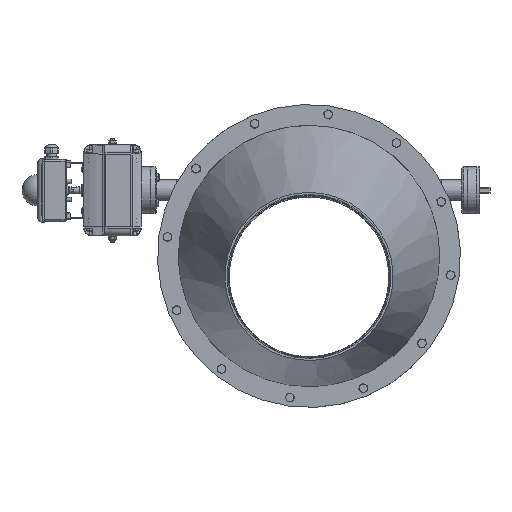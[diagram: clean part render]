
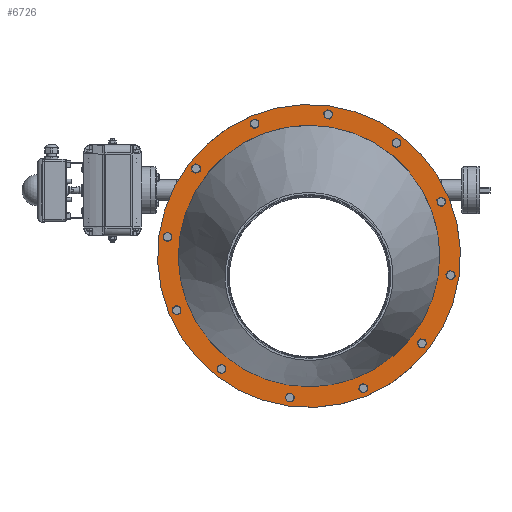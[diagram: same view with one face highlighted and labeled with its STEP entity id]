
A CAD part, top view. The second image highlights one B-rep face of the part: STEP entity #6726.
In plain terms, the highlighted planar face has unit normal (0, 0, 1) as drawn and (0, 0, -1) by its records, which use the part's own axes.
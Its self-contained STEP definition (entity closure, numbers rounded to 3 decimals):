
#6013=CARTESIAN_POINT('',(232.855,-137.723,0.0));
#6014=VERTEX_POINT('',#6013);
#6015=CARTESIAN_POINT('',(238.605,-137.723,0.0));
#6016=DIRECTION('',(0.0,0.0,1.0));
#6017=DIRECTION('',(1.0,0.0,0.0));
#6018=AXIS2_PLACEMENT_3D('',#6015,#6016,#6017);
#6019=CIRCLE('',#6018,5.75);
#6020=EDGE_CURVE('',#6014,#6014,#6019,.T.);
#6062=CARTESIAN_POINT('',(269.75,0.031,0.0));
#6063=VERTEX_POINT('',#6062);
#6064=CARTESIAN_POINT('',(275.5,0.031,0.0));
#6065=DIRECTION('',(0.0,0.0,1.0));
#6066=DIRECTION('',(1.0,0.0,0.0));
#6067=AXIS2_PLACEMENT_3D('',#6064,#6065,#6066);
#6068=CIRCLE('',#6067,5.75);
#6069=EDGE_CURVE('',#6063,#6063,#6068,.T.);
#6111=CARTESIAN_POINT('',(232.825,137.777,0.0));
#6112=VERTEX_POINT('',#6111);
#6113=CARTESIAN_POINT('',(238.575,137.777,0.0));
#6114=DIRECTION('',(0.0,0.0,1.0));
#6115=DIRECTION('',(1.0,0.0,0.0));
#6116=AXIS2_PLACEMENT_3D('',#6113,#6114,#6115);
#6117=CIRCLE('',#6116,5.75);
#6118=EDGE_CURVE('',#6112,#6112,#6117,.T.);
#6160=CARTESIAN_POINT('',(131.973,238.605,0.0));
#6161=VERTEX_POINT('',#6160);
#6162=CARTESIAN_POINT('',(137.723,238.605,0.0));
#6163=DIRECTION('',(0.0,0.0,1.0));
#6164=DIRECTION('',(1.0,0.0,0.0));
#6165=AXIS2_PLACEMENT_3D('',#6162,#6163,#6164);
#6166=CIRCLE('',#6165,5.75);
#6167=EDGE_CURVE('',#6161,#6161,#6166,.T.);
#6209=CARTESIAN_POINT('',(-244.325,-137.777,0.0));
#6210=VERTEX_POINT('',#6209);
#6211=CARTESIAN_POINT('',(-238.575,-137.777,0.0));
#6212=DIRECTION('',(0.0,0.0,1.0));
#6213=DIRECTION('',(1.0,0.0,0.0));
#6214=AXIS2_PLACEMENT_3D('',#6211,#6212,#6213);
#6215=CIRCLE('',#6214,5.75);
#6216=EDGE_CURVE('',#6210,#6210,#6215,.T.);
#6258=CARTESIAN_POINT('',(-143.473,-238.605,0.0));
#6259=VERTEX_POINT('',#6258);
#6260=CARTESIAN_POINT('',(-137.723,-238.605,0.0));
#6261=DIRECTION('',(0.0,0.0,1.0));
#6262=DIRECTION('',(1.0,0.0,0.0));
#6263=AXIS2_PLACEMENT_3D('',#6260,#6261,#6262);
#6264=CIRCLE('',#6263,5.75);
#6265=EDGE_CURVE('',#6259,#6259,#6264,.T.);
#6307=CARTESIAN_POINT('',(-5.719,-275.5,0.0));
#6308=VERTEX_POINT('',#6307);
#6309=CARTESIAN_POINT('',(0.031,-275.5,0.0));
#6310=DIRECTION('',(0.0,0.0,1.0));
#6311=DIRECTION('',(1.0,0.0,0.0));
#6312=AXIS2_PLACEMENT_3D('',#6309,#6310,#6311);
#6313=CIRCLE('',#6312,5.75);
#6314=EDGE_CURVE('',#6308,#6308,#6313,.T.);
#6356=CARTESIAN_POINT('',(132.027,-238.575,0.0));
#6357=VERTEX_POINT('',#6356);
#6358=CARTESIAN_POINT('',(137.777,-238.575,0.0));
#6359=DIRECTION('',(0.0,0.0,1.0));
#6360=DIRECTION('',(1.0,0.0,0.0));
#6361=AXIS2_PLACEMENT_3D('',#6358,#6359,#6360);
#6362=CIRCLE('',#6361,5.75);
#6363=EDGE_CURVE('',#6357,#6357,#6362,.T.);
#6405=CARTESIAN_POINT('',(-281.25,-0.031,0.0));
#6406=VERTEX_POINT('',#6405);
#6407=CARTESIAN_POINT('',(-275.5,-0.031,0.0));
#6408=DIRECTION('',(0.0,0.0,1.0));
#6409=DIRECTION('',(1.0,0.0,0.0));
#6410=AXIS2_PLACEMENT_3D('',#6407,#6408,#6409);
#6411=CIRCLE('',#6410,5.75);
#6412=EDGE_CURVE('',#6406,#6406,#6411,.T.);
#6454=CARTESIAN_POINT('',(-244.355,137.723,0.0));
#6455=VERTEX_POINT('',#6454);
#6456=CARTESIAN_POINT('',(-238.605,137.723,0.0));
#6457=DIRECTION('',(0.0,0.0,1.0));
#6458=DIRECTION('',(1.0,0.0,0.0));
#6459=AXIS2_PLACEMENT_3D('',#6456,#6457,#6458);
#6460=CIRCLE('',#6459,5.75);
#6461=EDGE_CURVE('',#6455,#6455,#6460,.T.);
#6503=CARTESIAN_POINT('',(-143.527,238.575,0.0));
#6504=VERTEX_POINT('',#6503);
#6505=CARTESIAN_POINT('',(-137.777,238.575,0.0));
#6506=DIRECTION('',(0.0,0.0,1.0));
#6507=DIRECTION('',(1.0,0.0,0.0));
#6508=AXIS2_PLACEMENT_3D('',#6505,#6506,#6507);
#6509=CIRCLE('',#6508,5.75);
#6510=EDGE_CURVE('',#6504,#6504,#6509,.T.);
#6552=CARTESIAN_POINT('',(-5.781,275.5,0.0));
#6553=VERTEX_POINT('',#6552);
#6554=CARTESIAN_POINT('',(-0.031,275.5,0.0));
#6555=DIRECTION('',(0.0,0.0,1.0));
#6556=DIRECTION('',(1.0,0.0,0.0));
#6557=AXIS2_PLACEMENT_3D('',#6554,#6555,#6556);
#6558=CIRCLE('',#6557,5.75);
#6559=EDGE_CURVE('',#6553,#6553,#6558,.T.);
#6591=CARTESIAN_POINT('',(252.,0.,0.0));
#6592=VERTEX_POINT('',#6591);
#6593=CARTESIAN_POINT('',(0.0,0.0,0.0));
#6594=DIRECTION('',(0.0,0.0,1.0));
#6595=DIRECTION('',(-1.0,0.0,0.0));
#6596=AXIS2_PLACEMENT_3D('',#6593,#6594,#6595);
#6597=CIRCLE('',#6596,252.);
#6598=EDGE_CURVE('',#6592,#6592,#6597,.T.);
#6619=CARTESIAN_POINT('',(292.0,0.,0.0));
#6620=VERTEX_POINT('',#6619);
#6621=CARTESIAN_POINT('',(0.0,0.0,0.0));
#6622=DIRECTION('',(0.0,0.0,-1.0));
#6623=DIRECTION('',(-1.0,0.0,0.0));
#6624=AXIS2_PLACEMENT_3D('',#6621,#6622,#6623);
#6625=CIRCLE('',#6624,292.0);
#6626=EDGE_CURVE('',#6620,#6620,#6625,.T.);
#6679=CARTESIAN_POINT('',(0.0,0.0,0.0));
#6680=DIRECTION('',(0.0,0.0,-1.0));
#6681=DIRECTION('',(-1.0,0.0,0.0));
#6682=AXIS2_PLACEMENT_3D('',#6679,#6680,#6681);
#6683=PLANE('',#6682);
#6684=ORIENTED_EDGE('',*,*,#6626,.T.);
#6685=EDGE_LOOP('',(#6684));
#6686=FACE_OUTER_BOUND('',#6685,.T.);
#6687=ORIENTED_EDGE('',*,*,#6020,.T.);
#6688=EDGE_LOOP('',(#6687));
#6689=FACE_BOUND('',#6688,.T.);
#6690=ORIENTED_EDGE('',*,*,#6069,.T.);
#6691=EDGE_LOOP('',(#6690));
#6692=FACE_BOUND('',#6691,.T.);
#6693=ORIENTED_EDGE('',*,*,#6118,.T.);
#6694=EDGE_LOOP('',(#6693));
#6695=FACE_BOUND('',#6694,.T.);
#6696=ORIENTED_EDGE('',*,*,#6167,.T.);
#6697=EDGE_LOOP('',(#6696));
#6698=FACE_BOUND('',#6697,.T.);
#6699=ORIENTED_EDGE('',*,*,#6216,.T.);
#6700=EDGE_LOOP('',(#6699));
#6701=FACE_BOUND('',#6700,.T.);
#6702=ORIENTED_EDGE('',*,*,#6265,.T.);
#6703=EDGE_LOOP('',(#6702));
#6704=FACE_BOUND('',#6703,.T.);
#6705=ORIENTED_EDGE('',*,*,#6314,.T.);
#6706=EDGE_LOOP('',(#6705));
#6707=FACE_BOUND('',#6706,.T.);
#6708=ORIENTED_EDGE('',*,*,#6363,.T.);
#6709=EDGE_LOOP('',(#6708));
#6710=FACE_BOUND('',#6709,.T.);
#6711=ORIENTED_EDGE('',*,*,#6412,.T.);
#6712=EDGE_LOOP('',(#6711));
#6713=FACE_BOUND('',#6712,.T.);
#6714=ORIENTED_EDGE('',*,*,#6461,.T.);
#6715=EDGE_LOOP('',(#6714));
#6716=FACE_BOUND('',#6715,.T.);
#6717=ORIENTED_EDGE('',*,*,#6510,.T.);
#6718=EDGE_LOOP('',(#6717));
#6719=FACE_BOUND('',#6718,.T.);
#6720=ORIENTED_EDGE('',*,*,#6559,.T.);
#6721=EDGE_LOOP('',(#6720));
#6722=FACE_BOUND('',#6721,.T.);
#6723=ORIENTED_EDGE('',*,*,#6598,.T.);
#6724=EDGE_LOOP('',(#6723));
#6725=FACE_BOUND('',#6724,.T.);
#6726=ADVANCED_FACE('',(#6686,#6689,#6692,#6695,#6698,#6701,#6704,#6707,#6710,#6713,#6716,#6719,#6722,#6725),#6683,.T.);
